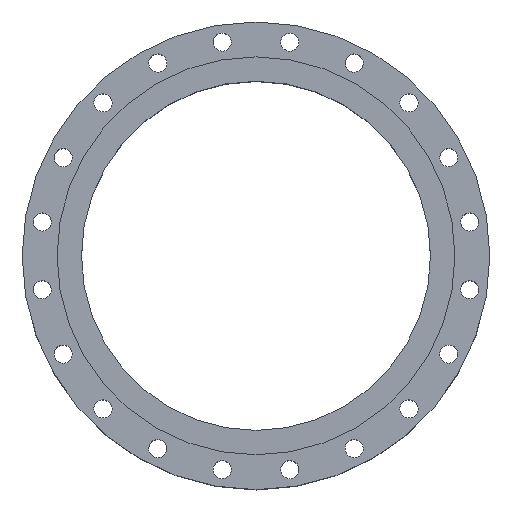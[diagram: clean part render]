
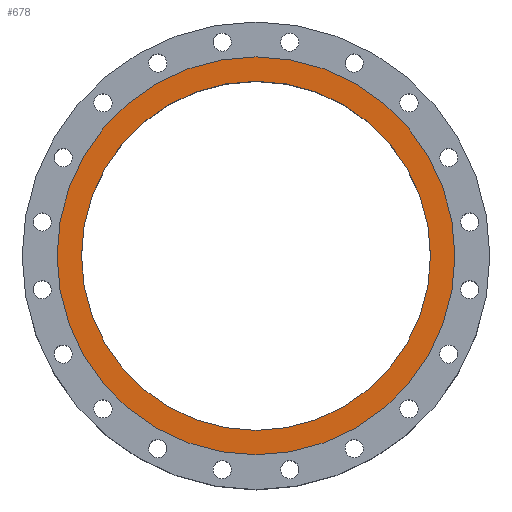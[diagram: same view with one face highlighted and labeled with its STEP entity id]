
A CAD part, top view. The second image highlights one B-rep face of the part: STEP entity #678.
In plain terms, the highlighted planar face has unit normal (0, 0, 1).
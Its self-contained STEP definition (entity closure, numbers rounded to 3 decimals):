
#678=ADVANCED_FACE('',(#1503,#1505),#1507,.T.);
#1503=FACE_BOUND('',#1504,.T.);
#1504=EDGE_LOOP('',(#1836));
#1505=FACE_BOUND('',#1506,.T.);
#1506=EDGE_LOOP('',(#1837));
#1507=PLANE('',#1508);
#1508=AXIS2_PLACEMENT_3D('',#1509,#1510,#1511);
#1509=CARTESIAN_POINT('',(0.,0.,132.5));
#1510=DIRECTION('',(0.,0.,1.));
#1511=DIRECTION('',(0.,1.,0.));
#1836=ORIENTED_EDGE('',*,*,#1984,.F.);
#1837=ORIENTED_EDGE('',*,*,#1986,.T.);
#1984=EDGE_CURVE('',#2246,#2246,#2247,.T.);
#1986=EDGE_CURVE('',#2250,#2250,#2251,.T.);
#2246=VERTEX_POINT('',#3915);
#2247=CIRCLE('',#3916,285.);
#2250=VERTEX_POINT('',#3925);
#2251=CIRCLE('',#3926,250.);
#3915=CARTESIAN_POINT('',(0.,285.,132.5));
#3916=AXIS2_PLACEMENT_3D('',#3917,#3918,#3919);
#3917=CARTESIAN_POINT('',(0.,0.,132.5));
#3918=DIRECTION('',(0.,0.,-1.));
#3919=DIRECTION('',(0.,1.,0.));
#3925=CARTESIAN_POINT('',(0.,250.,132.5));
#3926=AXIS2_PLACEMENT_3D('',#3927,#3928,#3929);
#3927=CARTESIAN_POINT('',(0.,0.,132.5));
#3928=DIRECTION('',(0.,0.,-1.));
#3929=DIRECTION('',(0.,1.,0.));
